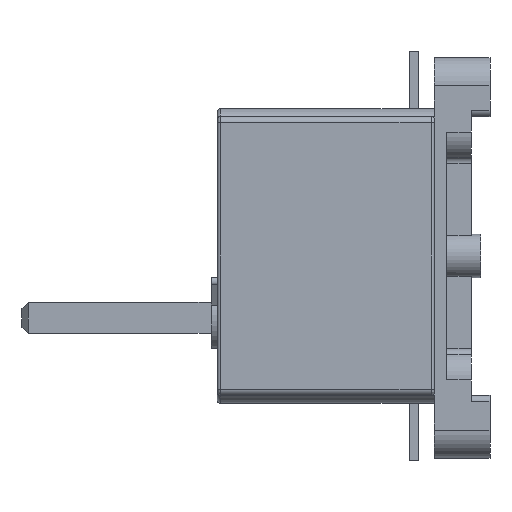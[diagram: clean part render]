
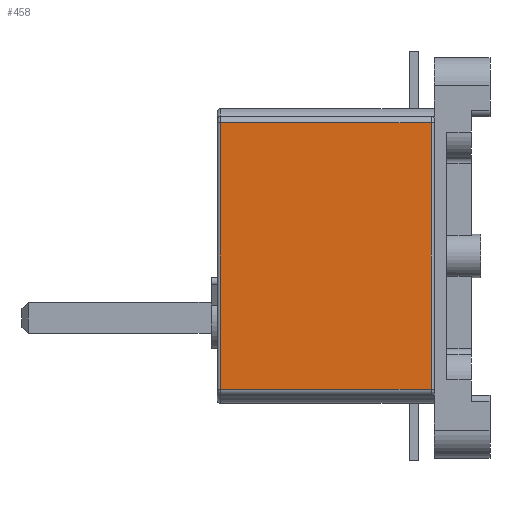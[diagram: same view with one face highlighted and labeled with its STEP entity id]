
A CAD part, left-side view. The second image highlights one B-rep face of the part: STEP entity #458.
In plain terms, the highlighted planar face has unit normal (-1, 0, 0).
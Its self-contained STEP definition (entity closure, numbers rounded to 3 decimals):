
#458=ADVANCED_FACE('',(#763),#653,.F.);
#653=PLANE('',#3686);
#763=FACE_OUTER_BOUND('',#916,.T.);
#916=EDGE_LOOP('',(#1309,#1310,#1311,#1312));
#1309=ORIENTED_EDGE('',*,*,#2628,.T.);
#1310=ORIENTED_EDGE('',*,*,#2630,.T.);
#1311=ORIENTED_EDGE('',*,*,#2631,.F.);
#1312=ORIENTED_EDGE('',*,*,#2632,.T.);
#2281=VERTEX_POINT('',#5366);
#2282=VERTEX_POINT('',#5368);
#2283=VERTEX_POINT('',#5372);
#2284=VERTEX_POINT('',#5374);
#2628=EDGE_CURVE('',#2282,#2281,#3099,.T.);
#2630=EDGE_CURVE('',#2281,#2283,#3100,.T.);
#2631=EDGE_CURVE('',#2284,#2283,#3101,.T.);
#2632=EDGE_CURVE('',#2284,#2282,#3102,.T.);
#3099=LINE('',#5367,#3409);
#3100=LINE('',#5371,#3410);
#3101=LINE('',#5373,#3411);
#3102=LINE('',#5375,#3412);
#3409=VECTOR('',#4220,1.);
#3410=VECTOR('',#4225,1.);
#3411=VECTOR('',#4226,1.);
#3412=VECTOR('',#4227,1.);
#3686=AXIS2_PLACEMENT_3D('',#5376,#4228,#4229);
#4220=DIRECTION('',(0.,-1.,0.));
#4225=DIRECTION('',(0.,0.,1.));
#4226=DIRECTION('',(0.,-1.,0.));
#4227=DIRECTION('',(0.,0.,-1.));
#4228=DIRECTION('',(1.,0.,0.));
#4229=DIRECTION('',(0.,0.,-1.));
#5366=CARTESIAN_POINT('',(-41.,1.,-43.));
#5367=CARTESIAN_POINT('',(-41.,35.,-43.));
#5368=CARTESIAN_POINT('',(-41.,69.,-43.));
#5371=CARTESIAN_POINT('',(-41.,1.,-43.));
#5372=CARTESIAN_POINT('',(-41.,1.,43.));
#5373=CARTESIAN_POINT('',(-41.,35.,43.));
#5374=CARTESIAN_POINT('',(-41.,69.,43.));
#5375=CARTESIAN_POINT('',(-41.,69.,-43.));
#5376=CARTESIAN_POINT('',(-41.,35.,-43.));
